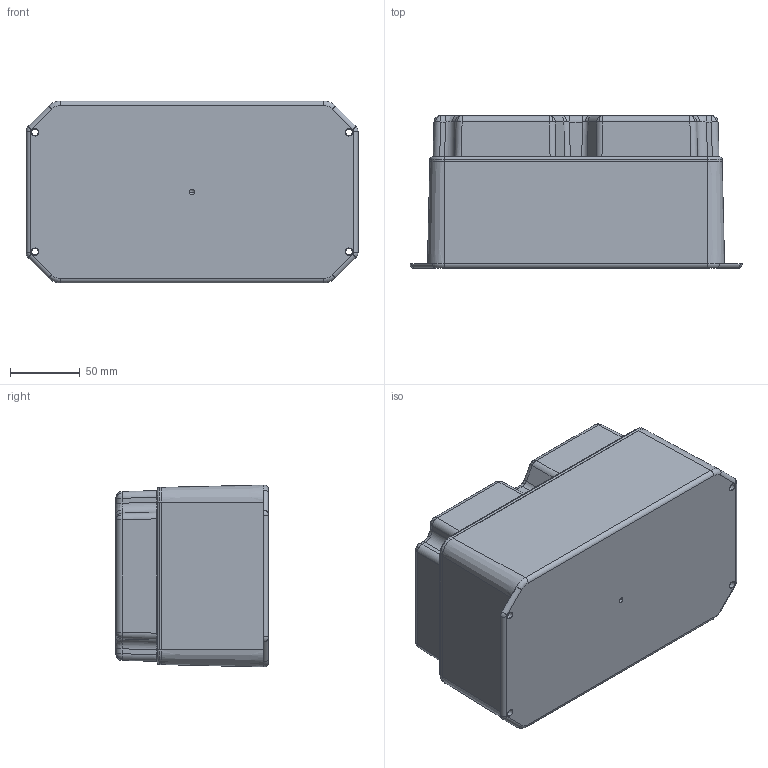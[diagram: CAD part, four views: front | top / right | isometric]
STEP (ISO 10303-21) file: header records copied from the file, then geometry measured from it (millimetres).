
FILE_DESCRIPTION (( 'STEP AP214' ), '1' );
FILE_NAME ('DC-85FMMRG_ASS''Y.STEP', '2010-08-23T12:25:09', ( '' ), ( '' ), 'SwSTEP 2.0', 'SolidWorks 2010', '' );
FILE_SCHEMA (( 'AUTOMOTIVE_DESIGN' ));
Length unit declared in the file: inch
Products named in the file (6): DC-58B_DC-58BFMBY; DC-85CMB_DC-85CMBR; SCREWS-DC2-BR; GASKET; O-RING; DC-85FMMRG_ASS''Y
Assembly tree (15 placements, depth 2):
  DC-85FMMRG_ASS''Y
    GASKET
    SCREWS-DC2-BR  x6
    DC-58B_DC-58BFMBY
    DC-85CMB_DC-85CMBR
    O-RING  x6
Bounding box: 238.4 x 109.65 x 130.68 mm (x, y, z)
Volume: 465595.4 mm3; surface area: 273857.2 mm2
Topology: 21 solids, 21 shells, 1010 faces, 2386 edges, 1482 vertices
Faces by surface type: plane 286, cylinder 284, cone 200, bspline 160, torus 64, sphere 16
Entity records: 28713 total; most frequent: CARTESIAN_POINT 8261, ORIENTED_EDGE 3968, DIRECTION 3944, EDGE_CURVE 1984, AXIS2_PLACEMENT_3D 1611, VERTEX_POINT 1232, EDGE_LOOP 972, CIRCLE 898
